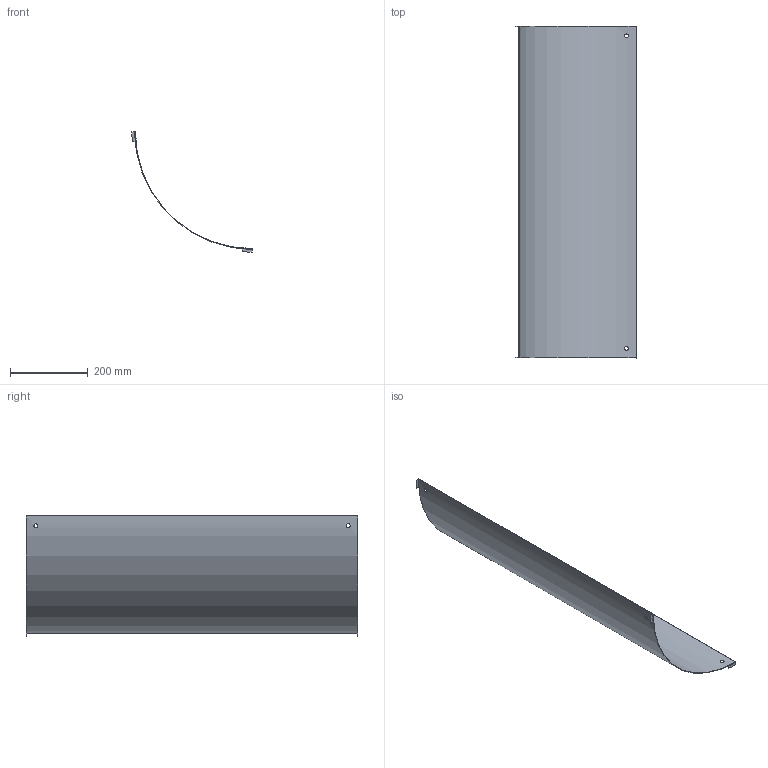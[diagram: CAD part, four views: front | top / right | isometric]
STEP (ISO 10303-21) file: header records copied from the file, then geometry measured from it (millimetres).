
FILE_DESCRIPTION(/* description */ ('','CAx-IF Rec.Pracs.---Representation and Presentation of Product Manufacturing Information (PMI)---4.0---2014-10-13'),/* implementation_level */ '2;1');
FILE_NAME(/* name */ 'Eurostrut_EIRC800-90-300_Cover Inside Riser 90 for Cable Ladder ECL.step',/* time_stamp */ '2026-09-10T11:56:00+02:00',/* author */ (''),/* organization */ (''),/* preprocessor_version */ 'ST-DEVELOPER v20.1',/* originating_system */ 'Autodesk Revit 2027 27.2.0.39',/* authorisation */ '');
FILE_SCHEMA (('AP242_MANAGED_MODEL_BASED_3D_ENGINEERING_MIM_LF { 1 0 10303 442 2 1 4 }'));
Length unit declared in the file: millimetre
Products named in the file (3): TopLevelAssembly; Sweep; Joined Solid Geometry
Assembly tree (2 placements, depth 2):
  TopLevelAssembly
    Sweep
    Joined Solid Geometry
Bounding box: 309 x 853 x 309 mm (x, y, z)
Volume: 605112.6 mm3; surface area: 811372.2 mm2
Topology: 5 solids, 5 shells, 38 faces, 84 edges, 56 vertices
Faces by surface type: plane 20, cylinder 18
Entity records: 1358 total; most frequent: CARTESIAN_POINT 461, DIRECTION 174, ORIENTED_EDGE 168, EDGE_CURVE 84, AXIS2_PLACEMENT_3D 63, VERTEX_POINT 56, LINE 48, VECTOR 48
